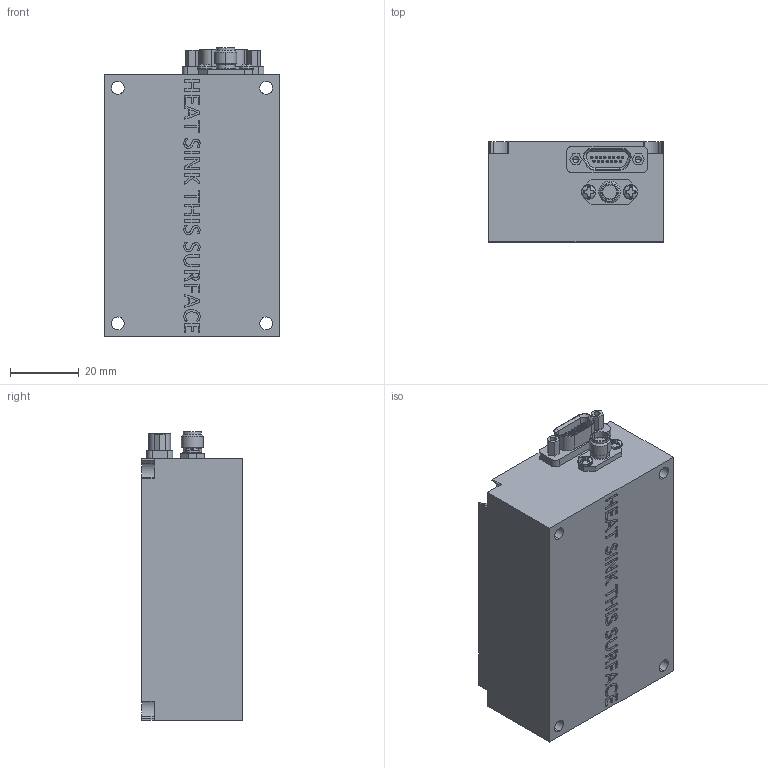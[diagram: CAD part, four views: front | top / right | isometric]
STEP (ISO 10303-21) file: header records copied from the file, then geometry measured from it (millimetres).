
FILE_DESCRIPTION (( 'STEP AP203' ), '1' );
FILE_NAME ('QS-TX-07BKXXX.STEP', '2023-09-06T12:06:27', ( '' ), ( '' ), 'SwSTEP 2.0', 'SolidWorks 2021', '' );
FILE_SCHEMA (( 'CONFIG_CONTROL_DESIGN' ));
Length unit declared in the file: inch
Products named in the file (1): QS-TX-07BKXXX
Bounding box: 50.8 x 29.23 x 84.14 mm (x, y, z)
Volume: 112375.6 mm3; surface area: 18254.4 mm2
Topology: 7 solids, 7 shells, 692 faces, 1761 edges, 1152 vertices
Faces by surface type: plane 290, bspline 195, cylinder 148, cone 31, torus 24, sphere 4
Entity records: 29164 total; most frequent: CARTESIAN_POINT 13309, ORIENTED_EDGE 3514, DIRECTION 2777, EDGE_CURVE 1757, VERTEX_POINT 1152, VECTOR 953, LINE 953, AXIS2_PLACEMENT_3D 912
